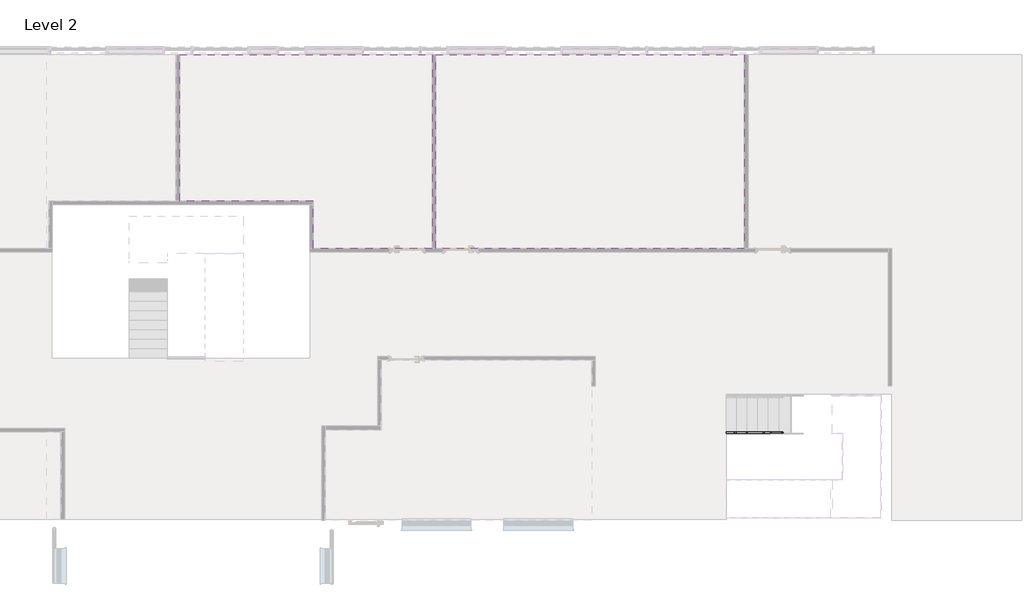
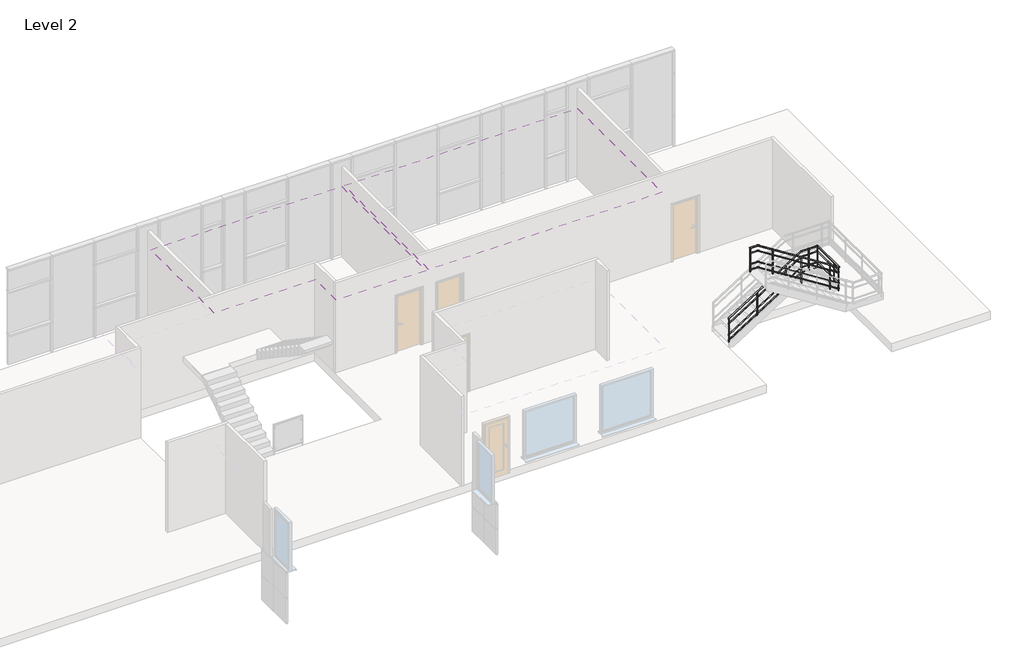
# One storey, part 5 of 7: 2 coverings, 1 railing.
"""IFC4 building model written with IfcOpenShell, lengths in millimetres."""

from ifc_helpers import new_model, si_unit, point, frame, frame_2d, origin, place, context, project, spatial, polyline, circle_curve, ellipse_curve, trimmed, segment, composite_curve, outline, extrude, element, save
from ifc_brep_helpers import plane_surface, cylinder_surface, advanced_brep

model = new_model("IFC4")

# Units and contexts
model_context = context("Model", 3, world=origin())
ifc_project = project(units=[si_unit("LENGTHUNIT", "METRE", prefix="MILLI")], contexts=[model_context])

# Site, building, storey
site = spatial("IfcSite", under=ifc_project)
building = spatial("IfcBuilding", under=site)
storey = spatial("IfcBuildingStorey", under=building, Name="Level 2", Elevation=7450.0)

# Coverings
placement = place(None, origin())
element("IfcCovering", 1, ObjectType="600x600mm_Grid", at=placement, inside=storey, context=model_context, shape_type="SweptSolid", body=[
    extrude(outline(polyline([(20865.7942367, 9007.4946591), (27533.2942367, 9007.4946591), (27533.2942367, 3884.8025486), (24393.2942367, 3884.8025486), (24393.2942367, 5143.5025486), (20865.7942367, 5143.5025486), (20865.7942367, 9007.4946591)])), frame((0.0, 0.0, 10050.0), z_axis=(0.0, 0.0, 1.0), x_axis=(1.0, 0.0, 0.0)), (0.0, 0.0, 1.0), 52.0),
])
element("IfcCovering", 2, ObjectType="600x600mm_Grid", at=placement, inside=storey, context=model_context, shape_type="SweptSolid", body=[
    extrude(outline(polyline([(27628.2942367, 9007.4946591), (35770.7942367, 9007.4946591), (35770.7942367, 3884.8025486), (27628.2942367, 3884.8025486), (27628.2942367, 9007.4946591)])), frame((0.0, 0.0, 10050.0), z_axis=(0.0, 0.0, 1.0), x_axis=(1.0, 0.0, 0.0)), (0.0, 0.0, 1.0), 52.0),
])

# Railing
element("IfcRailing", 3, ObjectType="900mm_Pipe 2", at=placement, inside=storey, context=model_context, shape_type="SolidModel", body=[
    advanced_brep(
    [(35285.7942367, -992.7974508, 8503.8199203), (35285.7942367, -952.7974508, 8503.8199203), (37811.5994328, -992.7974508, 10105.0), (37811.5994328, -952.7974508, 10105.0), (38085.7942367, -992.7974508, 10105.0), (38085.7942367, -952.7974508, 10105.0), (38371.1942367, -992.7974508, 10105.0), (38411.1942367, -952.7974508, 10105.0), (38371.1942367, -2240.073577, 10105.0), (38411.1942367, -2273.8572471, 10105.0)],
    [
        (0, 1, ellipse_curve(frame((35285.7942367, -972.7974508, 8503.8199203), z_axis=(-1.0, 0.0, 0.0), x_axis=(0.0, 0.0, -1.0)), 23.6800797, 20.0)),
        (1, 0, ellipse_curve(frame((35285.7942367, -972.7974508, 8503.8199203), z_axis=(-1.0, 0.0, 0.0), x_axis=(0.0, 0.0, -1.0)), 23.6800797, 20.0)),
        (0, 2),
        (2, 3, ellipse_curve(frame((37811.5994328, -972.7974508, 10105.0), z_axis=(-0.9603623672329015, 0.0, -0.27875459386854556), x_axis=(0.2787545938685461, 0.0, -0.9603623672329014)), 20.8254724, 20.0)),
        (3, 1),
        (3, 2, ellipse_curve(frame((37811.5994328, -972.7974508, 10105.0), z_axis=(-0.9603623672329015, 0.0, -0.27875459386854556), x_axis=(0.2787545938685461, 0.0, -0.9603623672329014)), 20.8254724, 20.0)),
        (2, 4),
        (4, 5, circle_curve(frame((38085.7942367, -972.7974508, 10105.0), z_axis=(-1.0, 0.0, 0.0), x_axis=(0.0, 1.0, 0.0)), 20.0)),
        (5, 3),
        (5, 4, circle_curve(frame((38085.7942367, -972.7974508, 10105.0), z_axis=(-1.0, 0.0, 0.0), x_axis=(0.0, 1.0, 0.0)), 20.0)),
        (4, 6),
        (6, 7, ellipse_curve(frame((38391.1942367, -972.7974508, 10105.0), z_axis=(-0.7071067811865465, 0.7071067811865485, 0.0), x_axis=(-0.7071067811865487, -0.7071067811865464, 0.0)), 28.2842712, 20.0)),
        (7, 5),
        (7, 6, ellipse_curve(frame((38391.1942367, -972.7974508, 10105.0), z_axis=(-0.7071067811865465, 0.7071067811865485, 0.0), x_axis=(-0.7071067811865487, -0.7071067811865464, 0.0)), 28.2842712, 20.0)),
        (8, 9, ellipse_curve(frame((38391.1942367, -2256.9654121, 10105.0), z_axis=(-0.5972165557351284, -0.7071067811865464, 0.3785926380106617), x_axis=(-0.5972165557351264, 0.7071067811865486, 0.3785926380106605)), 28.2842712, 20.0)),
        (9, 8, ellipse_curve(frame((38391.1942367, -2256.9654121, 10105.0), z_axis=(-0.5972165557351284, -0.7071067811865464, 0.3785926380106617), x_axis=(-0.5972165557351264, 0.7071067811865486, 0.3785926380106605)), 28.2842712, 20.0)),
        (6, 8),
        (9, 7),
    ],
    [
        plane_surface(frame((35285.7942367, -972.7974508, 8527.5), z_axis=(-1.0, 0.0, 0.0), x_axis=(0.0, 1.0, 0.0))),
        cylinder_surface(frame((35296.5024535, -972.7974508, 8510.6081649), z_axis=(-0.8445917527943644, 0.0, -0.535410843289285), x_axis=(0.0, 1.0, 0.0)), 20.0),
        cylinder_surface(frame((37805.7942367, -972.7974508, 10105.0), z_axis=(-1.0, 0.0, 0.0), x_axis=(0.0, 1.0, 0.0)), 20.0),
        cylinder_surface(frame((38085.7942367, -972.7974508, 10105.0), z_axis=(-1.0, 0.0, 0.0), x_axis=(0.0, 1.0, 0.0)), 20.0),
        plane_surface(frame((38391.1942367, -2246.2571952, 10125.0), z_axis=(-0.5972165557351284, -0.7071067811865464, 0.3785926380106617), x_axis=(0.8020800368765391, -0.5265009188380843, 0.2818943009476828))),
        cylinder_surface(frame((38391.1942367, -972.7974508, 10105.0), z_axis=(0.0, 1.0, 0.0), x_axis=(1.0, 0.0, 0.0)), 20.0),
    ],
    [
        (0, [[1, 2]]),
        (1, [[-1, 3, 4, 5]]),
        (1, [[-2, -5, 6, -3]]),
        (2, [[-4, 7, 8, 9]]),
        (2, [[-6, -9, 10, -7]]),
        (3, [[-8, 11, 12, 13]]),
        (3, [[-10, -13, 14, -11]]),
        (4, [[15, 16]]),
        (5, [[-12, 17, -16, 18]]),
        (5, [[-14, -18, -15, -17]]),
    ],
),
    advanced_brep(
    [(38344.6646609, -2226.2571952, 10118.8163818), (38378.448331, -2266.2571952, 10097.3999481), (38081.5564959, -2226.2571952, 10285.6081649), (38081.5564959, -2266.2571952, 10285.6081649), (35566.4595167, -2226.2571952, 11880.0), (35566.4595167, -2266.2571952, 11880.0), (35292.2647128, -2226.2571952, 11880.0), (35292.2647128, -2266.2571952, 11880.0)],
    [
        (0, 1, ellipse_curve(frame((38361.5564959, -2246.2571952, 10108.1081649), z_axis=(0.5972165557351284, 0.7071067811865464, -0.3785926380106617), x_axis=(0.5972165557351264, -0.7071067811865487, -0.37859263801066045)), 28.2842712, 20.0)),
        (1, 0, ellipse_curve(frame((38361.5564959, -2246.2571952, 10108.1081649), z_axis=(0.5972165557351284, 0.7071067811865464, -0.3785926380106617), x_axis=(0.5972165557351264, -0.7071067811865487, -0.37859263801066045)), 28.2842712, 20.0)),
        (0, 2),
        (2, 3, circle_curve(frame((38081.5564959, -2246.2571952, 10285.6081649), z_axis=(0.8445917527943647, 0.0, -0.5354108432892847), x_axis=(0.0, -1.0, 0.0)), 20.0)),
        (3, 1),
        (3, 2, circle_curve(frame((38081.5564959, -2246.2571952, 10285.6081649), z_axis=(0.8445917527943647, 0.0, -0.5354108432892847), x_axis=(0.0, -1.0, 0.0)), 20.0)),
        (2, 4),
        (4, 5, ellipse_curve(frame((35566.4595167, -2246.2571952, 11880.0), z_axis=(0.9603623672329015, 0.0, -0.27875459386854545), x_axis=(-0.27875459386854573, 0.0, -0.9603623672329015)), 20.8254724, 20.0)),
        (5, 3),
        (5, 4, ellipse_curve(frame((35566.4595167, -2246.2571952, 11880.0), z_axis=(0.9603623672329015, 0.0, -0.27875459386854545), x_axis=(-0.27875459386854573, 0.0, -0.9603623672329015)), 20.8254724, 20.0)),
        (6, 7, circle_curve(frame((35292.2647128, -2246.2571952, 11880.0), z_axis=(-1.0, 0.0, 0.0), x_axis=(0.0, -1.0, 0.0)), 20.0)),
        (7, 6, circle_curve(frame((35292.2647128, -2246.2571952, 11880.0), z_axis=(-1.0, 0.0, 0.0), x_axis=(0.0, -1.0, 0.0)), 20.0)),
        (4, 6),
        (7, 5),
    ],
    [
        plane_surface(frame((38372.2647128, -2246.2571952, 10125.0), z_axis=(0.5972165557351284, 0.7071067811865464, -0.3785926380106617), x_axis=(0.8020800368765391, -0.5265009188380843, 0.2818943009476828))),
        cylinder_surface(frame((38361.5564959, -2246.2571952, 10108.1081649), z_axis=(0.8445917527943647, 0.0, -0.5354108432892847), x_axis=(0.0, -1.0, 0.0)), 20.0),
        cylinder_surface(frame((38081.5564959, -2246.2571952, 10285.6081649), z_axis=(0.8445917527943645, 0.0, -0.5354108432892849), x_axis=(0.0, -1.0, 0.0)), 20.0),
        plane_surface(frame((35292.2647128, -2246.2571952, 11900.0), z_axis=(-1.0, 0.0, 0.0), x_axis=(0.0, -1.0, 0.0))),
        cylinder_surface(frame((35572.2647128, -2246.2571952, 11880.0), z_axis=(1.0, 0.0, 0.0), x_axis=(0.0, -1.0, 0.0)), 20.0),
    ],
    [
        (0, [[1, 2]]),
        (1, [[-1, 3, 4, 5]]),
        (1, [[-2, -5, 6, -3]]),
        (2, [[-4, 7, 8, 9]]),
        (2, [[-6, -9, 10, -7]]),
        (3, [[11, 12]]),
        (4, [[-8, 13, -12, 14]]),
        (4, [[-10, -14, -11, -13]]),
    ],
),
    advanced_brep(
    [(38085.7942367, -957.7974508, 9910.0), (38085.7942367, -987.7974508, 9910.0), (38376.1942367, -957.7974508, 9910.0), (38376.1942367, -987.7974508, 9910.0)],
    [
        (0, 1, circle_curve(frame((38085.7942367, -972.7974508, 9910.0), z_axis=(-1.0, 0.0, 0.0), x_axis=(0.0, -1.0, 0.0)), 15.0)),
        (1, 0, circle_curve(frame((38085.7942367, -972.7974508, 9910.0), z_axis=(-1.0, 0.0, 0.0), x_axis=(0.0, -1.0, 0.0)), 15.0)),
        (2, 3, circle_curve(frame((38376.1942367, -972.7974508, 9910.0), z_axis=(1.0, 0.0, 0.0), x_axis=(0.0, -1.0, 0.0)), 15.0)),
        (3, 2, circle_curve(frame((38376.1942367, -972.7974508, 9910.0), z_axis=(1.0, 0.0, 0.0), x_axis=(0.0, -1.0, 0.0)), 15.0)),
        (0, 2),
        (3, 1),
    ],
    [
        plane_surface(frame((38085.7942367, -972.7974508, 9925.0), z_axis=(-1.0, 0.0, 0.0), x_axis=(0.0, 1.0, 0.0))),
        plane_surface(frame((38376.1942367, -972.7974508, 9925.0), z_axis=(1.0, 0.0, 0.0), x_axis=(0.0, 1.0, 0.0))),
        cylinder_surface(frame((38085.7942367, -972.7974508, 9910.0), z_axis=(-1.0, 0.0, 0.0), x_axis=(0.0, -1.0, 0.0)), 15.0),
    ],
    [
        (0, [[1, 2]]),
        (1, [[3, 4]]),
        (2, [[-1, 5, -4, 6]]),
        (2, [[-2, -6, -3, -5]]),
    ],
),
    advanced_brep(
    [(38406.1942367, -957.7974508, 9910.0), (38376.1942367, -957.7974508, 9910.0), (38406.1942367, -2231.2571952, 9910.0), (38376.1942367, -2231.2571952, 9910.0)],
    [
        (0, 1, circle_curve(frame((38391.1942367, -957.7974508, 9910.0), z_axis=(0.0, 1.0, 0.0), x_axis=(-1.0, 0.0, 0.0)), 15.0)),
        (1, 0, circle_curve(frame((38391.1942367, -957.7974508, 9910.0), z_axis=(0.0, 1.0, 0.0), x_axis=(-1.0, 0.0, 0.0)), 15.0)),
        (2, 3, circle_curve(frame((38391.1942367, -2231.2571952, 9910.0), z_axis=(0.0, -1.0, 0.0), x_axis=(-1.0, 0.0, 0.0)), 15.0)),
        (3, 2, circle_curve(frame((38391.1942367, -2231.2571952, 9910.0), z_axis=(0.0, -1.0, 0.0), x_axis=(-1.0, 0.0, 0.0)), 15.0)),
        (0, 2),
        (3, 1),
    ],
    [
        plane_surface(frame((38391.1942367, -957.7974508, 9925.0), z_axis=(0.0, 1.0, 0.0), x_axis=(0.0, 0.0, -1.0))),
        plane_surface(frame((38391.1942367, -2231.2571952, 9925.0), z_axis=(0.0, -1.0, 0.0), x_axis=(0.0, 0.0, -1.0))),
        cylinder_surface(frame((38391.1942367, -957.7974508, 9910.0), z_axis=(0.0, 1.0, 0.0), x_axis=(-1.0, 0.0, 0.0)), 15.0),
    ],
    [
        (0, [[1, 2]]),
        (1, [[3, 4]]),
        (2, [[-1, 5, -4, 6]]),
        (2, [[-2, -6, -3, -5]]),
    ],
),
    advanced_brep(
    [(38406.1942367, -2261.2571952, 9910.0), (38406.1942367, -2231.2571952, 9910.0), (38367.9108157, -2261.2571952, 9910.0), (38367.9108157, -2231.2571952, 9910.0), (38092.2647128, -2261.2571952, 10084.7399402), (38092.2647128, -2231.2571952, 10084.7399402)],
    [
        (0, 1, circle_curve(frame((38406.1942367, -2246.2571952, 9910.0), z_axis=(1.0, 0.0, 0.0), x_axis=(0.0, 1.0, 0.0)), 15.0)),
        (1, 0, circle_curve(frame((38406.1942367, -2246.2571952, 9910.0), z_axis=(1.0, 0.0, 0.0), x_axis=(0.0, 1.0, 0.0)), 15.0)),
        (0, 2),
        (2, 3, ellipse_curve(frame((38367.9108157, -2246.2571952, 9910.0), z_axis=(0.9603623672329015, 0.0, -0.27875459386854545), x_axis=(0.27875459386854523, 0.0, 0.9603623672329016)), 15.6191043, 15.0)),
        (3, 1),
        (3, 2, ellipse_curve(frame((38367.9108157, -2246.2571952, 9910.0), z_axis=(0.9603623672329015, 0.0, -0.27875459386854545), x_axis=(0.27875459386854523, 0.0, 0.9603623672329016)), 15.6191043, 15.0)),
        (4, 5, ellipse_curve(frame((38092.2647128, -2246.2571952, 10084.7399402), z_axis=(-1.0, 0.0, 0.0), x_axis=(0.0, 0.0, -1.0)), 17.7600598, 15.0)),
        (5, 4, ellipse_curve(frame((38092.2647128, -2246.2571952, 10084.7399402), z_axis=(-1.0, 0.0, 0.0), x_axis=(0.0, 0.0, -1.0)), 17.7600598, 15.0)),
        (2, 4),
        (5, 3),
    ],
    [
        plane_surface(frame((38406.1942367, -2246.2571952, 9925.0), z_axis=(1.0, 0.0, 0.0), x_axis=(0.0, -1.0, 0.0))),
        cylinder_surface(frame((38406.1942367, -2246.2571952, 9910.0), z_axis=(1.0, 0.0, 0.0), x_axis=(0.0, 1.0, 0.0)), 15.0),
        plane_surface(frame((38092.2647128, -2246.2571952, 10102.5), z_axis=(-1.0, 0.0, 0.0), x_axis=(0.0, -1.0, 0.0))),
        cylinder_surface(frame((38364.2335502, -2246.2571952, 9912.3311237), z_axis=(0.8445917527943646, 0.0, -0.5354108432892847), x_axis=(0.0, 1.0, 0.0)), 15.0),
    ],
    [
        (0, [[1, 2]]),
        (1, [[-1, 3, 4, 5]]),
        (1, [[-2, -5, 6, -3]]),
        (2, [[7, 8]]),
        (3, [[-4, 9, -8, 10]]),
        (3, [[-6, -10, -7, -9]]),
    ],
),
    advanced_brep(
    [(38085.7942367, -957.7974508, 9510.0), (38085.7942367, -987.7974508, 9510.0), (38376.1942367, -957.7974508, 9510.0), (38376.1942367, -987.7974508, 9510.0)],
    [
        (0, 1, circle_curve(frame((38085.7942367, -972.7974508, 9510.0), z_axis=(-1.0, 0.0, 0.0), x_axis=(0.0, -1.0, 0.0)), 15.0)),
        (1, 0, circle_curve(frame((38085.7942367, -972.7974508, 9510.0), z_axis=(-1.0, 0.0, 0.0), x_axis=(0.0, -1.0, 0.0)), 15.0)),
        (2, 3, circle_curve(frame((38376.1942367, -972.7974508, 9510.0), z_axis=(1.0, 0.0, 0.0), x_axis=(0.0, -1.0, 0.0)), 15.0)),
        (3, 2, circle_curve(frame((38376.1942367, -972.7974508, 9510.0), z_axis=(1.0, 0.0, 0.0), x_axis=(0.0, -1.0, 0.0)), 15.0)),
        (0, 2),
        (3, 1),
    ],
    [
        plane_surface(frame((38085.7942367, -972.7974508, 9525.0), z_axis=(-1.0, 0.0, 0.0), x_axis=(0.0, 1.0, 0.0))),
        plane_surface(frame((38376.1942367, -972.7974508, 9525.0), z_axis=(1.0, 0.0, 0.0), x_axis=(0.0, 1.0, 0.0))),
        cylinder_surface(frame((38085.7942367, -972.7974508, 9510.0), z_axis=(-1.0, 0.0, 0.0), x_axis=(0.0, -1.0, 0.0)), 15.0),
    ],
    [
        (0, [[1, 2]]),
        (1, [[3, 4]]),
        (2, [[-1, 5, -4, 6]]),
        (2, [[-2, -6, -3, -5]]),
    ],
),
    advanced_brep(
    [(38406.1942367, -957.7974508, 9510.0), (38376.1942367, -957.7974508, 9510.0), (38406.1942367, -2231.2571952, 9510.0), (38376.1942367, -2231.2571952, 9510.0)],
    [
        (0, 1, circle_curve(frame((38391.1942367, -957.7974508, 9510.0), z_axis=(0.0, 1.0, 0.0), x_axis=(-1.0, 0.0, 0.0)), 15.0)),
        (1, 0, circle_curve(frame((38391.1942367, -957.7974508, 9510.0), z_axis=(0.0, 1.0, 0.0), x_axis=(-1.0, 0.0, 0.0)), 15.0)),
        (2, 3, circle_curve(frame((38391.1942367, -2231.2571952, 9510.0), z_axis=(0.0, -1.0, 0.0), x_axis=(-1.0, 0.0, 0.0)), 15.0)),
        (3, 2, circle_curve(frame((38391.1942367, -2231.2571952, 9510.0), z_axis=(0.0, -1.0, 0.0), x_axis=(-1.0, 0.0, 0.0)), 15.0)),
        (0, 2),
        (3, 1),
    ],
    [
        plane_surface(frame((38391.1942367, -957.7974508, 9525.0), z_axis=(0.0, 1.0, 0.0), x_axis=(0.0, 0.0, -1.0))),
        plane_surface(frame((38391.1942367, -2231.2571952, 9525.0), z_axis=(0.0, -1.0, 0.0), x_axis=(0.0, 0.0, -1.0))),
        cylinder_surface(frame((38391.1942367, -957.7974508, 9510.0), z_axis=(0.0, 1.0, 0.0), x_axis=(-1.0, 0.0, 0.0)), 15.0),
    ],
    [
        (0, [[1, 2]]),
        (1, [[3, 4]]),
        (2, [[-1, 5, -4, 6]]),
        (2, [[-2, -6, -3, -5]]),
    ],
),
    advanced_brep(
    [(38406.1942367, -2261.2571952, 9510.0), (38406.1942367, -2231.2571952, 9510.0), (38367.9108157, -2261.2571952, 9510.0), (38367.9108157, -2231.2571952, 9510.0), (38092.2647128, -2261.2571952, 9684.7399402), (38092.2647128, -2231.2571952, 9684.7399402)],
    [
        (0, 1, circle_curve(frame((38406.1942367, -2246.2571952, 9510.0), z_axis=(1.0, 0.0, 0.0), x_axis=(0.0, 1.0, 0.0)), 15.0)),
        (1, 0, circle_curve(frame((38406.1942367, -2246.2571952, 9510.0), z_axis=(1.0, 0.0, 0.0), x_axis=(0.0, 1.0, 0.0)), 15.0)),
        (0, 2),
        (2, 3, ellipse_curve(frame((38367.9108157, -2246.2571952, 9510.0), z_axis=(0.9603623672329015, 0.0, -0.27875459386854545), x_axis=(0.27875459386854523, 0.0, 0.9603623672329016)), 15.6191043, 15.0)),
        (3, 1),
        (3, 2, ellipse_curve(frame((38367.9108157, -2246.2571952, 9510.0), z_axis=(0.9603623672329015, 0.0, -0.27875459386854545), x_axis=(0.27875459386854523, 0.0, 0.9603623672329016)), 15.6191043, 15.0)),
        (4, 5, ellipse_curve(frame((38092.2647128, -2246.2571952, 9684.7399402), z_axis=(-1.0, 0.0, 0.0), x_axis=(0.0, 0.0, -1.0)), 17.7600598, 15.0)),
        (5, 4, ellipse_curve(frame((38092.2647128, -2246.2571952, 9684.7399402), z_axis=(-1.0, 0.0, 0.0), x_axis=(0.0, 0.0, -1.0)), 17.7600598, 15.0)),
        (2, 4),
        (5, 3),
    ],
    [
        plane_surface(frame((38406.1942367, -2246.2571952, 9525.0), z_axis=(1.0, 0.0, 0.0), x_axis=(0.0, -1.0, 0.0))),
        cylinder_surface(frame((38406.1942367, -2246.2571952, 9510.0), z_axis=(1.0, 0.0, 0.0), x_axis=(0.0, 1.0, 0.0)), 15.0),
        plane_surface(frame((38092.2647128, -2246.2571952, 9702.5), z_axis=(-1.0, 0.0, 0.0), x_axis=(0.0, -1.0, 0.0))),
        cylinder_surface(frame((38364.2335502, -2246.2571952, 9512.3311237), z_axis=(0.8445917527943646, 0.0, -0.5354108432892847), x_axis=(0.0, 1.0, 0.0)), 15.0),
    ],
    [
        (0, [[1, 2]]),
        (1, [[-1, 3, 4, 5]]),
        (1, [[-2, -5, 6, -3]]),
        (2, [[7, 8]]),
        (3, [[-4, 9, -8, 10]]),
        (3, [[-6, -10, -7, -9]]),
    ],
),
    advanced_brep(
    [(38085.7942367, -957.7974508, 9310.0), (38085.7942367, -987.7974508, 9310.0), (38376.1942367, -957.7974508, 9310.0), (38376.1942367, -987.7974508, 9310.0)],
    [
        (0, 1, circle_curve(frame((38085.7942367, -972.7974508, 9310.0), z_axis=(-1.0, 0.0, 0.0), x_axis=(0.0, -1.0, 0.0)), 15.0)),
        (1, 0, circle_curve(frame((38085.7942367, -972.7974508, 9310.0), z_axis=(-1.0, 0.0, 0.0), x_axis=(0.0, -1.0, 0.0)), 15.0)),
        (2, 3, circle_curve(frame((38376.1942367, -972.7974508, 9310.0), z_axis=(1.0, 0.0, 0.0), x_axis=(0.0, -1.0, 0.0)), 15.0)),
        (3, 2, circle_curve(frame((38376.1942367, -972.7974508, 9310.0), z_axis=(1.0, 0.0, 0.0), x_axis=(0.0, -1.0, 0.0)), 15.0)),
        (0, 2),
        (3, 1),
    ],
    [
        plane_surface(frame((38085.7942367, -972.7974508, 9325.0), z_axis=(-1.0, 0.0, 0.0), x_axis=(0.0, 1.0, 0.0))),
        plane_surface(frame((38376.1942367, -972.7974508, 9325.0), z_axis=(1.0, 0.0, 0.0), x_axis=(0.0, 1.0, 0.0))),
        cylinder_surface(frame((38085.7942367, -972.7974508, 9310.0), z_axis=(-1.0, 0.0, 0.0), x_axis=(0.0, -1.0, 0.0)), 15.0),
    ],
    [
        (0, [[1, 2]]),
        (1, [[3, 4]]),
        (2, [[-1, 5, -4, 6]]),
        (2, [[-2, -6, -3, -5]]),
    ],
),
    advanced_brep(
    [(38406.1942367, -957.7974508, 9310.0), (38376.1942367, -957.7974508, 9310.0), (38406.1942367, -2231.2571952, 9310.0), (38376.1942367, -2231.2571952, 9310.0)],
    [
        (0, 1, circle_curve(frame((38391.1942367, -957.7974508, 9310.0), z_axis=(0.0, 1.0, 0.0), x_axis=(-1.0, 0.0, 0.0)), 15.0)),
        (1, 0, circle_curve(frame((38391.1942367, -957.7974508, 9310.0), z_axis=(0.0, 1.0, 0.0), x_axis=(-1.0, 0.0, 0.0)), 15.0)),
        (2, 3, circle_curve(frame((38391.1942367, -2231.2571952, 9310.0), z_axis=(0.0, -1.0, 0.0), x_axis=(-1.0, 0.0, 0.0)), 15.0)),
        (3, 2, circle_curve(frame((38391.1942367, -2231.2571952, 9310.0), z_axis=(0.0, -1.0, 0.0), x_axis=(-1.0, 0.0, 0.0)), 15.0)),
        (0, 2),
        (3, 1),
    ],
    [
        plane_surface(frame((38391.1942367, -957.7974508, 9325.0), z_axis=(0.0, 1.0, 0.0), x_axis=(0.0, 0.0, -1.0))),
        plane_surface(frame((38391.1942367, -2231.2571952, 9325.0), z_axis=(0.0, -1.0, 0.0), x_axis=(0.0, 0.0, -1.0))),
        cylinder_surface(frame((38391.1942367, -957.7974508, 9310.0), z_axis=(0.0, 1.0, 0.0), x_axis=(-1.0, 0.0, 0.0)), 15.0),
    ],
    [
        (0, [[1, 2]]),
        (1, [[3, 4]]),
        (2, [[-1, 5, -4, 6]]),
        (2, [[-2, -6, -3, -5]]),
    ],
),
    advanced_brep(
    [(38406.1942367, -2261.2571952, 9310.0), (38406.1942367, -2231.2571952, 9310.0), (38367.9108157, -2261.2571952, 9310.0), (38367.9108157, -2231.2571952, 9310.0), (38092.2647128, -2261.2571952, 9484.7399402), (38092.2647128, -2231.2571952, 9484.7399402)],
    [
        (0, 1, circle_curve(frame((38406.1942367, -2246.2571952, 9310.0), z_axis=(1.0, 0.0, 0.0), x_axis=(0.0, 1.0, 0.0)), 15.0)),
        (1, 0, circle_curve(frame((38406.1942367, -2246.2571952, 9310.0), z_axis=(1.0, 0.0, 0.0), x_axis=(0.0, 1.0, 0.0)), 15.0)),
        (0, 2),
        (2, 3, ellipse_curve(frame((38367.9108157, -2246.2571952, 9310.0), z_axis=(0.9603623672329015, 0.0, -0.27875459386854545), x_axis=(0.27875459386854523, 0.0, 0.9603623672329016)), 15.6191043, 15.0)),
        (3, 1),
        (3, 2, ellipse_curve(frame((38367.9108157, -2246.2571952, 9310.0), z_axis=(0.9603623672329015, 0.0, -0.27875459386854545), x_axis=(0.27875459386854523, 0.0, 0.9603623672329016)), 15.6191043, 15.0)),
        (4, 5, ellipse_curve(frame((38092.2647128, -2246.2571952, 9484.7399402), z_axis=(-1.0, 0.0, 0.0), x_axis=(0.0, 0.0, -1.0)), 17.7600598, 15.0)),
        (5, 4, ellipse_curve(frame((38092.2647128, -2246.2571952, 9484.7399402), z_axis=(-1.0, 0.0, 0.0), x_axis=(0.0, 0.0, -1.0)), 17.7600598, 15.0)),
        (2, 4),
        (5, 3),
    ],
    [
        plane_surface(frame((38406.1942367, -2246.2571952, 9325.0), z_axis=(1.0, 0.0, 0.0), x_axis=(0.0, -1.0, 0.0))),
        cylinder_surface(frame((38406.1942367, -2246.2571952, 9310.0), z_axis=(1.0, 0.0, 0.0), x_axis=(0.0, 1.0, 0.0)), 15.0),
        plane_surface(frame((38092.2647128, -2246.2571952, 9502.5), z_axis=(-1.0, 0.0, 0.0), x_axis=(0.0, -1.0, 0.0))),
        cylinder_surface(frame((38364.2335502, -2246.2571952, 9312.3311237), z_axis=(0.8445917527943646, 0.0, -0.5354108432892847), x_axis=(0.0, 1.0, 0.0)), 15.0),
    ],
    [
        (0, [[1, 2]]),
        (1, [[-1, 3, 4, 5]]),
        (1, [[-2, -5, 6, -3]]),
        (2, [[7, 8]]),
        (3, [[-4, 9, -8, 10]]),
        (3, [[-6, -10, -7, -9]]),
    ],
),
    advanced_brep(
    [(35285.7942367, -957.7974508, 8309.7399402), (35285.7942367, -987.7974508, 8309.7399402), (37810.1481338, -957.7974508, 9910.0), (37810.1481338, -987.7974508, 9910.0), (38085.7942367, -957.7974508, 9910.0), (38085.7942367, -987.7974508, 9910.0)],
    [
        (0, 1, ellipse_curve(frame((35285.7942367, -972.7974508, 8309.7399402), z_axis=(-1.0, 0.0, 0.0), x_axis=(0.0, 0.0, -1.0)), 17.7600598, 15.0)),
        (1, 0, ellipse_curve(frame((35285.7942367, -972.7974508, 8309.7399402), z_axis=(-1.0, 0.0, 0.0), x_axis=(0.0, 0.0, -1.0)), 17.7600598, 15.0)),
        (0, 2),
        (2, 3, ellipse_curve(frame((37810.1481338, -972.7974508, 9910.0), z_axis=(-0.9603623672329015, 0.0, -0.27875459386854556), x_axis=(0.2787545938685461, 0.0, -0.9603623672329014)), 15.6191043, 15.0)),
        (3, 1),
        (3, 2, ellipse_curve(frame((37810.1481338, -972.7974508, 9910.0), z_axis=(-0.9603623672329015, 0.0, -0.27875459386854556), x_axis=(0.2787545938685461, 0.0, -0.9603623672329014)), 15.6191043, 15.0)),
        (4, 5, circle_curve(frame((38085.7942367, -972.7974508, 9910.0), z_axis=(1.0, 0.0, 0.0), x_axis=(0.0, -1.0, 0.0)), 15.0)),
        (5, 4, circle_curve(frame((38085.7942367, -972.7974508, 9910.0), z_axis=(1.0, 0.0, 0.0), x_axis=(0.0, -1.0, 0.0)), 15.0)),
        (2, 4),
        (5, 3),
    ],
    [
        plane_surface(frame((35285.7942367, -972.7974508, 8327.5), z_axis=(-1.0, 0.0, 0.0), x_axis=(0.0, 1.0, 0.0))),
        cylinder_surface(frame((35293.8253993, -972.7974508, 8314.8311237), z_axis=(-0.8445917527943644, 0.0, -0.535410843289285), x_axis=(0.0, -1.0, 0.0)), 15.0),
        plane_surface(frame((38085.7942367, -972.7974508, 9925.0), z_axis=(1.0, 0.0, 0.0), x_axis=(0.0, 1.0, 0.0))),
        cylinder_surface(frame((37805.7942367, -972.7974508, 9910.0), z_axis=(-1.0, 0.0, 0.0), x_axis=(0.0, -1.0, 0.0)), 15.0),
    ],
    [
        (0, [[1, 2]]),
        (1, [[-1, 3, 4, 5]]),
        (1, [[-2, -5, 6, -3]]),
        (2, [[7, 8]]),
        (3, [[-4, 9, -8, 10]]),
        (3, [[-6, -10, -7, -9]]),
    ],
),
    advanced_brep(
    [(38092.2647128, -2261.2571952, 10084.7399402), (38092.2647128, -2231.2571952, 10084.7399402), (35567.9108157, -2261.2571952, 11685.0), (35567.9108157, -2231.2571952, 11685.0), (35292.2647128, -2261.2571952, 11685.0), (35292.2647128, -2231.2571952, 11685.0)],
    [
        (0, 1, ellipse_curve(frame((38092.2647128, -2246.2571952, 10084.7399402), z_axis=(1.0, 0.0, 0.0), x_axis=(0.0, 0.0, -1.0)), 17.7600598, 15.0)),
        (1, 0, ellipse_curve(frame((38092.2647128, -2246.2571952, 10084.7399402), z_axis=(1.0, 0.0, 0.0), x_axis=(0.0, 0.0, -1.0)), 17.7600598, 15.0)),
        (0, 2),
        (2, 3, ellipse_curve(frame((35567.9108157, -2246.2571952, 11685.0), z_axis=(0.9603623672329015, 0.0, -0.27875459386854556), x_axis=(-0.2787545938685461, 0.0, -0.9603623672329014)), 15.6191043, 15.0)),
        (3, 1),
        (3, 2, ellipse_curve(frame((35567.9108157, -2246.2571952, 11685.0), z_axis=(0.9603623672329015, 0.0, -0.27875459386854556), x_axis=(-0.2787545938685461, 0.0, -0.9603623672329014)), 15.6191043, 15.0)),
        (4, 5, circle_curve(frame((35292.2647128, -2246.2571952, 11685.0), z_axis=(-1.0, 0.0, 0.0), x_axis=(0.0, 1.0, 0.0)), 15.0)),
        (5, 4, circle_curve(frame((35292.2647128, -2246.2571952, 11685.0), z_axis=(-1.0, 0.0, 0.0), x_axis=(0.0, 1.0, 0.0)), 15.0)),
        (2, 4),
        (5, 3),
    ],
    [
        plane_surface(frame((38092.2647128, -2246.2571952, 10102.5), z_axis=(1.0, 0.0, 0.0), x_axis=(0.0, -1.0, 0.0))),
        cylinder_surface(frame((38084.2335502, -2246.2571952, 10089.8311237), z_axis=(0.8445917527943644, 0.0, -0.535410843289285), x_axis=(0.0, 1.0, 0.0)), 15.0),
        plane_surface(frame((35292.2647128, -2246.2571952, 11700.0), z_axis=(-1.0, 0.0, 0.0), x_axis=(0.0, -1.0, 0.0))),
        cylinder_surface(frame((35572.2647128, -2246.2571952, 11685.0), z_axis=(1.0, 0.0, 0.0), x_axis=(0.0, 1.0, 0.0)), 15.0),
    ],
    [
        (0, [[1, 2]]),
        (1, [[-1, 3, 4, 5]]),
        (1, [[-2, -5, 6, -3]]),
        (2, [[7, 8]]),
        (3, [[-4, 9, -8, 10]]),
        (3, [[-6, -10, -7, -9]]),
    ],
),
    advanced_brep(
    [(35285.7942367, -957.7974508, 7909.7399402), (35285.7942367, -987.7974508, 7909.7399402), (37810.1481338, -957.7974508, 9510.0), (37810.1481338, -987.7974508, 9510.0), (38085.7942367, -957.7974508, 9510.0), (38085.7942367, -987.7974508, 9510.0)],
    [
        (0, 1, ellipse_curve(frame((35285.7942367, -972.7974508, 7909.7399402), z_axis=(-1.0, 0.0, 0.0), x_axis=(0.0, 0.0, -1.0)), 17.7600598, 15.0)),
        (1, 0, ellipse_curve(frame((35285.7942367, -972.7974508, 7909.7399402), z_axis=(-1.0, 0.0, 0.0), x_axis=(0.0, 0.0, -1.0)), 17.7600598, 15.0)),
        (0, 2),
        (2, 3, ellipse_curve(frame((37810.1481338, -972.7974508, 9510.0), z_axis=(-0.9603623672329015, 0.0, -0.27875459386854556), x_axis=(0.2787545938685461, 0.0, -0.9603623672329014)), 15.6191043, 15.0)),
        (3, 1),
        (3, 2, ellipse_curve(frame((37810.1481338, -972.7974508, 9510.0), z_axis=(-0.9603623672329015, 0.0, -0.27875459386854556), x_axis=(0.2787545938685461, 0.0, -0.9603623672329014)), 15.6191043, 15.0)),
        (4, 5, circle_curve(frame((38085.7942367, -972.7974508, 9510.0), z_axis=(1.0, 0.0, 0.0), x_axis=(0.0, -1.0, 0.0)), 15.0)),
        (5, 4, circle_curve(frame((38085.7942367, -972.7974508, 9510.0), z_axis=(1.0, 0.0, 0.0), x_axis=(0.0, -1.0, 0.0)), 15.0)),
        (2, 4),
        (5, 3),
    ],
    [
        plane_surface(frame((35285.7942367, -972.7974508, 7927.5), z_axis=(-1.0, 0.0, 0.0), x_axis=(0.0, 1.0, 0.0))),
        cylinder_surface(frame((35293.8253993, -972.7974508, 7914.8311237), z_axis=(-0.8445917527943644, 0.0, -0.535410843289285), x_axis=(0.0, -1.0, 0.0)), 15.0),
        plane_surface(frame((38085.7942367, -972.7974508, 9525.0), z_axis=(1.0, 0.0, 0.0), x_axis=(0.0, 1.0, 0.0))),
        cylinder_surface(frame((37805.7942367, -972.7974508, 9510.0), z_axis=(-1.0, 0.0, 0.0), x_axis=(0.0, -1.0, 0.0)), 15.0),
    ],
    [
        (0, [[1, 2]]),
        (1, [[-1, 3, 4, 5]]),
        (1, [[-2, -5, 6, -3]]),
        (2, [[7, 8]]),
        (3, [[-4, 9, -8, 10]]),
        (3, [[-6, -10, -7, -9]]),
    ],
),
    advanced_brep(
    [(38092.2647128, -2261.2571952, 9684.7399402), (38092.2647128, -2231.2571952, 9684.7399402), (35567.9108157, -2261.2571952, 11285.0), (35567.9108157, -2231.2571952, 11285.0), (35292.2647128, -2261.2571952, 11285.0), (35292.2647128, -2231.2571952, 11285.0)],
    [
        (0, 1, ellipse_curve(frame((38092.2647128, -2246.2571952, 9684.7399402), z_axis=(1.0, 0.0, 0.0), x_axis=(0.0, 0.0, -1.0)), 17.7600598, 15.0)),
        (1, 0, ellipse_curve(frame((38092.2647128, -2246.2571952, 9684.7399402), z_axis=(1.0, 0.0, 0.0), x_axis=(0.0, 0.0, -1.0)), 17.7600598, 15.0)),
        (0, 2),
        (2, 3, ellipse_curve(frame((35567.9108157, -2246.2571952, 11285.0), z_axis=(0.9603623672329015, 0.0, -0.27875459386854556), x_axis=(-0.2787545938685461, 0.0, -0.9603623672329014)), 15.6191043, 15.0)),
        (3, 1),
        (3, 2, ellipse_curve(frame((35567.9108157, -2246.2571952, 11285.0), z_axis=(0.9603623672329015, 0.0, -0.27875459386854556), x_axis=(-0.2787545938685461, 0.0, -0.9603623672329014)), 15.6191043, 15.0)),
        (4, 5, circle_curve(frame((35292.2647128, -2246.2571952, 11285.0), z_axis=(-1.0, 0.0, 0.0), x_axis=(0.0, 1.0, 0.0)), 15.0)),
        (5, 4, circle_curve(frame((35292.2647128, -2246.2571952, 11285.0), z_axis=(-1.0, 0.0, 0.0), x_axis=(0.0, 1.0, 0.0)), 15.0)),
        (2, 4),
        (5, 3),
    ],
    [
        plane_surface(frame((38092.2647128, -2246.2571952, 9702.5), z_axis=(1.0, 0.0, 0.0), x_axis=(0.0, -1.0, 0.0))),
        cylinder_surface(frame((38084.2335502, -2246.2571952, 9689.8311237), z_axis=(0.8445917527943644, 0.0, -0.535410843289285), x_axis=(0.0, 1.0, 0.0)), 15.0),
        plane_surface(frame((35292.2647128, -2246.2571952, 11300.0), z_axis=(-1.0, 0.0, 0.0), x_axis=(0.0, -1.0, 0.0))),
        cylinder_surface(frame((35572.2647128, -2246.2571952, 11285.0), z_axis=(1.0, 0.0, 0.0), x_axis=(0.0, 1.0, 0.0)), 15.0),
    ],
    [
        (0, [[1, 2]]),
        (1, [[-1, 3, 4, 5]]),
        (1, [[-2, -5, 6, -3]]),
        (2, [[7, 8]]),
        (3, [[-4, 9, -8, 10]]),
        (3, [[-6, -10, -7, -9]]),
    ],
),
    advanced_brep(
    [(35285.7942367, -957.7974508, 7709.7399402), (35285.7942367, -987.7974508, 7709.7399402), (37810.1481338, -957.7974508, 9310.0), (37810.1481338, -987.7974508, 9310.0), (38085.7942367, -957.7974508, 9310.0), (38085.7942367, -987.7974508, 9310.0)],
    [
        (0, 1, ellipse_curve(frame((35285.7942367, -972.7974508, 7709.7399402), z_axis=(-1.0, 0.0, 0.0), x_axis=(0.0, 0.0, -1.0)), 17.7600598, 15.0)),
        (1, 0, ellipse_curve(frame((35285.7942367, -972.7974508, 7709.7399402), z_axis=(-1.0, 0.0, 0.0), x_axis=(0.0, 0.0, -1.0)), 17.7600598, 15.0)),
        (0, 2),
        (2, 3, ellipse_curve(frame((37810.1481338, -972.7974508, 9310.0), z_axis=(-0.9603623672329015, 0.0, -0.27875459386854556), x_axis=(0.2787545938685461, 0.0, -0.9603623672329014)), 15.6191043, 15.0)),
        (3, 1),
        (3, 2, ellipse_curve(frame((37810.1481338, -972.7974508, 9310.0), z_axis=(-0.9603623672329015, 0.0, -0.27875459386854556), x_axis=(0.2787545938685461, 0.0, -0.9603623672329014)), 15.6191043, 15.0)),
        (4, 5, circle_curve(frame((38085.7942367, -972.7974508, 9310.0), z_axis=(1.0, 0.0, 0.0), x_axis=(0.0, -1.0, 0.0)), 15.0)),
        (5, 4, circle_curve(frame((38085.7942367, -972.7974508, 9310.0), z_axis=(1.0, 0.0, 0.0), x_axis=(0.0, -1.0, 0.0)), 15.0)),
        (2, 4),
        (5, 3),
    ],
    [
        plane_surface(frame((35285.7942367, -972.7974508, 7727.5), z_axis=(-1.0, 0.0, 0.0), x_axis=(0.0, 1.0, 0.0))),
        cylinder_surface(frame((35293.8253993, -972.7974508, 7714.8311237), z_axis=(-0.8445917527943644, 0.0, -0.535410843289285), x_axis=(0.0, -1.0, 0.0)), 15.0),
        plane_surface(frame((38085.7942367, -972.7974508, 9325.0), z_axis=(1.0, 0.0, 0.0), x_axis=(0.0, 1.0, 0.0))),
        cylinder_surface(frame((37805.7942367, -972.7974508, 9310.0), z_axis=(-1.0, 0.0, 0.0), x_axis=(0.0, -1.0, 0.0)), 15.0),
    ],
    [
        (0, [[1, 2]]),
        (1, [[-1, 3, 4, 5]]),
        (1, [[-2, -5, 6, -3]]),
        (2, [[7, 8]]),
        (3, [[-4, 9, -8, 10]]),
        (3, [[-6, -10, -7, -9]]),
    ],
),
    advanced_brep(
    [(38092.2647128, -2261.2571952, 9484.7399402), (38092.2647128, -2231.2571952, 9484.7399402), (35567.9108157, -2261.2571952, 11085.0), (35567.9108157, -2231.2571952, 11085.0), (35292.2647128, -2261.2571952, 11085.0), (35292.2647128, -2231.2571952, 11085.0)],
    [
        (0, 1, ellipse_curve(frame((38092.2647128, -2246.2571952, 9484.7399402), z_axis=(1.0, 0.0, 0.0), x_axis=(0.0, 0.0, -1.0)), 17.7600598, 15.0)),
        (1, 0, ellipse_curve(frame((38092.2647128, -2246.2571952, 9484.7399402), z_axis=(1.0, 0.0, 0.0), x_axis=(0.0, 0.0, -1.0)), 17.7600598, 15.0)),
        (0, 2),
        (2, 3, ellipse_curve(frame((35567.9108157, -2246.2571952, 11085.0), z_axis=(0.9603623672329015, 0.0, -0.27875459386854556), x_axis=(-0.2787545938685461, 0.0, -0.9603623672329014)), 15.6191043, 15.0)),
        (3, 1),
        (3, 2, ellipse_curve(frame((35567.9108157, -2246.2571952, 11085.0), z_axis=(0.9603623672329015, 0.0, -0.27875459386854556), x_axis=(-0.2787545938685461, 0.0, -0.9603623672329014)), 15.6191043, 15.0)),
        (4, 5, circle_curve(frame((35292.2647128, -2246.2571952, 11085.0), z_axis=(-1.0, 0.0, 0.0), x_axis=(0.0, 1.0, 0.0)), 15.0)),
        (5, 4, circle_curve(frame((35292.2647128, -2246.2571952, 11085.0), z_axis=(-1.0, 0.0, 0.0), x_axis=(0.0, 1.0, 0.0)), 15.0)),
        (2, 4),
        (5, 3),
    ],
    [
        plane_surface(frame((38092.2647128, -2246.2571952, 9502.5), z_axis=(1.0, 0.0, 0.0), x_axis=(0.0, -1.0, 0.0))),
        cylinder_surface(frame((38084.2335502, -2246.2571952, 9489.8311237), z_axis=(0.8445917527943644, 0.0, -0.535410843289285), x_axis=(0.0, 1.0, 0.0)), 15.0),
        plane_surface(frame((35292.2647128, -2246.2571952, 11100.0), z_axis=(-1.0, 0.0, 0.0), x_axis=(0.0, -1.0, 0.0))),
        cylinder_surface(frame((35572.2647128, -2246.2571952, 11085.0), z_axis=(1.0, 0.0, 0.0), x_axis=(0.0, 1.0, 0.0)), 15.0),
    ],
    [
        (0, [[1, 2]]),
        (1, [[-1, 3, 4, 5]]),
        (1, [[-2, -5, 6, -3]]),
        (2, [[7, 8]]),
        (3, [[-4, 9, -8, 10]]),
        (3, [[-6, -10, -7, -9]]),
    ],
),
    advanced_brep(
    [(36092.2647128, -2233.7571952, 11522.9969835), (36092.2647128, -2233.7571952, 10645.0), (36092.2647128, -2258.7571952, 10645.0), (36092.2647128, -2258.7571952, 11522.9969835)],
    [
        (0, 1),
        (1, 2, circle_curve(frame((36092.2647128, -2246.2571952, 10645.0), z_axis=(0.0, 0.0, 1.0), x_axis=(0.0, -1.0, 0.0)), 12.5)),
        (2, 3),
        (3, 0, ellipse_curve(frame((36092.2647128, -2246.2571952, 11522.9969835), z_axis=(-0.5354108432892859, 0.0, -0.8445917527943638), x_axis=(-0.8445917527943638, 0.0, 0.5354108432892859)), 14.8000498, 12.5)),
        (0, 3, ellipse_curve(frame((36092.2647128, -2246.2571952, 11522.9969835), z_axis=(-0.5354108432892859, 0.0, -0.8445917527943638), x_axis=(-0.8445917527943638, 0.0, 0.5354108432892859)), 14.8000498, 12.5)),
        (2, 1, circle_curve(frame((36092.2647128, -2246.2571952, 10645.0), z_axis=(0.0, 0.0, 1.0), x_axis=(0.0, -1.0, 0.0)), 12.5)),
    ],
    [
        cylinder_surface(frame((36092.2647128, -2246.2571952, 10545.0), z_axis=(0.0, 0.0, 1.0), x_axis=(0.0, -1.0, 0.0)), 12.5),
        plane_surface(frame((36067.2647128, -2271.2571952, 11538.8451978), z_axis=(0.5354108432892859, 0.0, 0.8445917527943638), x_axis=(0.0, 1.0, 0.0))),
        plane_surface(frame((36117.2647128, -2271.2571952, 10645.0), z_axis=(0.0, 0.0, -1.0), x_axis=(0.0, 1.0, 0.0))),
    ],
    [
        (0, [[1, 2, 3, 4]]),
        (0, [[-1, 5, -3, 6]]),
        (1, [[-4, -5]]),
        (2, [[-2, -6]]),
    ],
),
    advanced_brep(
    [(37092.2647128, -2233.7571952, 10889.0684121), (37092.2647128, -2233.7571952, 9935.0), (37092.2647128, -2258.7571952, 9935.0), (37092.2647128, -2258.7571952, 10889.0684121)],
    [
        (0, 1),
        (1, 2, circle_curve(frame((37092.2647128, -2246.2571952, 9935.0), z_axis=(0.0, 0.0, 1.0), x_axis=(0.0, -1.0, 0.0)), 12.5)),
        (2, 3),
        (3, 0, ellipse_curve(frame((37092.2647128, -2246.2571952, 10889.0684121), z_axis=(-0.5354108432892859, 0.0, -0.8445917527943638), x_axis=(-0.8445917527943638, 0.0, 0.5354108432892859)), 14.8000498, 12.5)),
        (0, 3, ellipse_curve(frame((37092.2647128, -2246.2571952, 10889.0684121), z_axis=(-0.5354108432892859, 0.0, -0.8445917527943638), x_axis=(-0.8445917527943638, 0.0, 0.5354108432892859)), 14.8000498, 12.5)),
        (2, 1, circle_curve(frame((37092.2647128, -2246.2571952, 9935.0), z_axis=(0.0, 0.0, 1.0), x_axis=(0.0, -1.0, 0.0)), 12.5)),
    ],
    [
        cylinder_surface(frame((37092.2647128, -2246.2571952, 9835.0), z_axis=(0.0, 0.0, 1.0), x_axis=(0.0, -1.0, 0.0)), 12.5),
        plane_surface(frame((37067.2647128, -2271.2571952, 10904.9166264), z_axis=(0.5354108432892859, 0.0, 0.8445917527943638), x_axis=(0.0, 1.0, 0.0))),
        plane_surface(frame((37117.2647128, -2271.2571952, 9935.0), z_axis=(0.0, 0.0, -1.0), x_axis=(0.0, 1.0, 0.0))),
    ],
    [
        (0, [[1, 2, 3, 4]]),
        (0, [[-1, 5, -3, 6]]),
        (1, [[-4, -5]]),
        (2, [[-2, -6]]),
    ],
),
    extrude(outline(composite_curve([segment(trimmed(circle_curve(frame_2d((38391.1942367, -1972.7974508)), 12.5), [point((38403.6942367, -1972.7974508))], [point((38378.6942367, -1972.7974508))], False, "CARTESIAN"), True, "CONTINUOUS"), segment(trimmed(circle_curve(frame_2d((38391.1942367, -1972.7974508)), 12.5), [point((38378.6942367, -1972.7974508))], [point((38403.6942367, -1972.7974508))], False, "CARTESIAN"), True, "CONTINUOUS")], self_intersect=False)), frame((0.0, 0.0, 9225.0), z_axis=(0.0, 0.0, 1.0), x_axis=(1.0, 0.0, 0.0)), (0.0, 0.0, 1.0), 860.0),
    advanced_brep(
    [(37285.7942367, -985.2974508, 9747.9969835), (37285.7942367, -985.2974508, 8870.0), (37285.7942367, -960.2974508, 8870.0), (37285.7942367, -960.2974508, 9747.9969835)],
    [
        (0, 1),
        (1, 2, circle_curve(frame((37285.7942367, -972.7974508, 8870.0), z_axis=(0.0, 0.0, 1.0), x_axis=(0.0, 1.0, 0.0)), 12.5)),
        (2, 3),
        (3, 0, ellipse_curve(frame((37285.7942367, -972.7974508, 9747.9969835), z_axis=(0.5354108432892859, 0.0, -0.8445917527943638), x_axis=(0.8445917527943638, 0.0, 0.5354108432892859)), 14.8000498, 12.5)),
        (0, 3, ellipse_curve(frame((37285.7942367, -972.7974508, 9747.9969835), z_axis=(0.5354108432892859, 0.0, -0.8445917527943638), x_axis=(0.8445917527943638, 0.0, 0.5354108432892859)), 14.8000498, 12.5)),
        (2, 1, circle_curve(frame((37285.7942367, -972.7974508, 8870.0), z_axis=(0.0, 0.0, 1.0), x_axis=(0.0, 1.0, 0.0)), 12.5)),
    ],
    [
        cylinder_surface(frame((37285.7942367, -972.7974508, 8770.0), z_axis=(0.0, 0.0, 1.0), x_axis=(0.0, 1.0, 0.0)), 12.5),
        plane_surface(frame((37310.7942367, -947.7974508, 9763.8451978), z_axis=(-0.5354108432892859, 0.0, 0.8445917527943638), x_axis=(0.0, -1.0, 0.0))),
        plane_surface(frame((37260.7942367, -947.7974508, 8870.0), z_axis=(0.0, 0.0, -1.0), x_axis=(0.0, -1.0, 0.0))),
    ],
    [
        (0, [[1, 2, 3, 4]]),
        (0, [[-1, 5, -3, 6]]),
        (1, [[-4, -5]]),
        (2, [[-2, -6]]),
    ],
),
    advanced_brep(
    [(36285.7942367, -985.2974508, 9114.0684121), (36285.7942367, -985.2974508, 8160.0), (36285.7942367, -960.2974508, 8160.0), (36285.7942367, -960.2974508, 9114.0684121)],
    [
        (0, 1),
        (1, 2, circle_curve(frame((36285.7942367, -972.7974508, 8160.0), z_axis=(0.0, 0.0, 1.0), x_axis=(0.0, 1.0, 0.0)), 12.5)),
        (2, 3),
        (3, 0, ellipse_curve(frame((36285.7942367, -972.7974508, 9114.0684121), z_axis=(0.5354108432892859, 0.0, -0.8445917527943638), x_axis=(0.8445917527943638, 0.0, 0.5354108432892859)), 14.8000498, 12.5)),
        (0, 3, ellipse_curve(frame((36285.7942367, -972.7974508, 9114.0684121), z_axis=(0.5354108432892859, 0.0, -0.8445917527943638), x_axis=(0.8445917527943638, 0.0, 0.5354108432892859)), 14.8000498, 12.5)),
        (2, 1, circle_curve(frame((36285.7942367, -972.7974508, 8160.0), z_axis=(0.0, 0.0, 1.0), x_axis=(0.0, 1.0, 0.0)), 12.5)),
    ],
    [
        cylinder_surface(frame((36285.7942367, -972.7974508, 8060.0), z_axis=(0.0, 0.0, 1.0), x_axis=(0.0, 1.0, 0.0)), 12.5),
        plane_surface(frame((36310.7942367, -947.7974508, 9129.9166264), z_axis=(-0.5354108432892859, 0.0, 0.8445917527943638), x_axis=(0.0, -1.0, 0.0))),
        plane_surface(frame((36260.7942367, -947.7974508, 8160.0), z_axis=(0.0, 0.0, -1.0), x_axis=(0.0, -1.0, 0.0))),
    ],
    [
        (0, [[1, 2, 3, 4]]),
        (0, [[-1, 5, -3, 6]]),
        (1, [[-4, -5]]),
        (2, [[-2, -6]]),
    ],
),
    advanced_brep(
    [(38092.2647128, -2233.7571952, 10255.1398406), (38092.2647128, -2233.7571952, 9225.0), (38092.2647128, -2258.7571952, 9225.0), (38092.2647128, -2258.7571952, 10255.1398406)],
    [
        (0, 1),
        (1, 2, circle_curve(frame((38092.2647128, -2246.2571952, 9225.0), z_axis=(0.0, 0.0, 1.0), x_axis=(0.0, -1.0, 0.0)), 12.5)),
        (2, 3),
        (3, 0, ellipse_curve(frame((38092.2647128, -2246.2571952, 10255.1398406), z_axis=(-0.5354108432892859, 0.0, -0.8445917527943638), x_axis=(-0.8445917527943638, 0.0, 0.5354108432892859)), 14.8000498, 12.5)),
        (0, 3, ellipse_curve(frame((38092.2647128, -2246.2571952, 10255.1398406), z_axis=(-0.5354108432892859, 0.0, -0.8445917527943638), x_axis=(-0.8445917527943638, 0.0, 0.5354108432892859)), 14.8000498, 12.5)),
        (2, 1, circle_curve(frame((38092.2647128, -2246.2571952, 9225.0), z_axis=(0.0, 0.0, 1.0), x_axis=(0.0, -1.0, 0.0)), 12.5)),
    ],
    [
        cylinder_surface(frame((38092.2647128, -2246.2571952, 9125.0), z_axis=(0.0, 0.0, 1.0), x_axis=(0.0, -1.0, 0.0)), 12.5),
        plane_surface(frame((38067.2647128, -2271.2571952, 10270.9880549), z_axis=(0.5354108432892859, 0.0, 0.8445917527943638), x_axis=(0.0, 1.0, 0.0))),
        plane_surface(frame((38117.2647128, -2271.2571952, 9225.0), z_axis=(0.0, 0.0, -1.0), x_axis=(0.0, 1.0, 0.0))),
    ],
    [
        (0, [[1, 2, 3, 4]]),
        (0, [[-1, 5, -3, 6]]),
        (1, [[-4, -5]]),
        (2, [[-2, -6]]),
    ],
),
    extrude(outline(composite_curve([segment(trimmed(circle_curve(frame_2d((38391.1942367, -2246.2571952)), 12.5), [point((38403.6942367, -2246.2571952))], [point((38378.6942367, -2246.2571952))], False, "CARTESIAN"), True, "CONTINUOUS"), segment(trimmed(circle_curve(frame_2d((38391.1942367, -2246.2571952)), 12.5), [point((38378.6942367, -2246.2571952))], [point((38403.6942367, -2246.2571952))], False, "CARTESIAN"), True, "CONTINUOUS")], self_intersect=False)), frame((0.0, 0.0, 9225.0), z_axis=(0.0, 0.0, 1.0), x_axis=(1.0, 0.0, 0.0)), (0.0, 0.0, 1.0), 860.0),
    extrude(outline(composite_curve([segment(trimmed(circle_curve(frame_2d((38391.1942367, -972.7974508)), 12.5), [point((38391.1942367, -960.2974508))], [point((38391.1942367, -985.2974508))], False, "CARTESIAN"), True, "CONTINUOUS"), segment(trimmed(circle_curve(frame_2d((38391.1942367, -972.7974508)), 12.5), [point((38391.1942367, -985.2974508))], [point((38391.1942367, -960.2974508))], False, "CARTESIAN"), True, "CONTINUOUS")], self_intersect=False)), frame((0.0, 0.0, 9225.0), z_axis=(0.0, 0.0, 1.0), x_axis=(1.0, 0.0, 0.0)), (0.0, 0.0, 1.0), 860.0),
    extrude(outline(composite_curve([segment(trimmed(circle_curve(frame_2d((38085.7942367, -972.7974508)), 12.5), [point((38085.7942367, -960.2974508))], [point((38085.7942367, -985.2974508))], False, "CARTESIAN"), True, "CONTINUOUS"), segment(trimmed(circle_curve(frame_2d((38085.7942367, -972.7974508)), 12.5), [point((38085.7942367, -985.2974508))], [point((38085.7942367, -960.2974508))], False, "CARTESIAN"), True, "CONTINUOUS")], self_intersect=False)), frame((0.0, 0.0, 9225.0), z_axis=(0.0, 0.0, 1.0), x_axis=(1.0, 0.0, 0.0)), (0.0, 0.0, 1.0), 860.0),
    extrude(outline(composite_curve([segment(trimmed(circle_curve(frame_2d((35304.7647128, -2246.2571952)), 12.5), [point((35304.7647128, -2258.7571952))], [point((35304.7647128, -2233.7571952))], False, "CARTESIAN"), True, "CONTINUOUS"), segment(trimmed(circle_curve(frame_2d((35304.7647128, -2246.2571952)), 12.5), [point((35304.7647128, -2233.7571952))], [point((35304.7647128, -2258.7571952))], False, "CARTESIAN"), True, "CONTINUOUS")], self_intersect=False)), frame((0.0, 0.0, 11000.0), z_axis=(0.0, 0.0, 1.0), x_axis=(1.0, 0.0, 0.0)), (0.0, 0.0, 1.0), 860.0),
    advanced_brep(
    [(35298.2942367, -985.2974508, 8488.0639478), (35298.2942367, -985.2974508, 7627.5), (35298.2942367, -960.2974508, 7627.5), (35298.2942367, -960.2974508, 8488.0639478)],
    [
        (0, 1),
        (1, 2, circle_curve(frame((35298.2942367, -972.7974508, 7627.5), z_axis=(0.0, 0.0, 1.0), x_axis=(0.0, 1.0, 0.0)), 12.5)),
        (2, 3),
        (3, 0, ellipse_curve(frame((35298.2942367, -972.7974508, 8488.0639478), z_axis=(0.5354108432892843, 0.0, -0.8445917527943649), x_axis=(0.8445917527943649, 0.0, 0.5354108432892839)), 14.8000498, 12.5)),
        (0, 3, ellipse_curve(frame((35298.2942367, -972.7974508, 8488.0639478), z_axis=(0.5354108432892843, 0.0, -0.8445917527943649), x_axis=(0.8445917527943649, 0.0, 0.5354108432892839)), 14.8000498, 12.5)),
        (2, 1, circle_curve(frame((35298.2942367, -972.7974508, 7627.5), z_axis=(0.0, 0.0, 1.0), x_axis=(0.0, 1.0, 0.0)), 12.5)),
    ],
    [
        cylinder_surface(frame((35298.2942367, -972.7974508, 7527.5), z_axis=(0.0, 0.0, 1.0), x_axis=(0.0, 1.0, 0.0)), 12.5),
        plane_surface(frame((35323.2942367, -947.7974508, 8503.9121621), z_axis=(-0.5354108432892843, 0.0, 0.8445917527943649), x_axis=(0.0, -1.0, 0.0))),
        plane_surface(frame((35273.2942367, -947.7974508, 7627.5), z_axis=(0.0, 0.0, -1.0), x_axis=(0.0, -1.0, 0.0))),
    ],
    [
        (0, [[1, 2, 3, 4]]),
        (0, [[-1, 5, -3, 6]]),
        (1, [[-4, -5]]),
        (2, [[-2, -6]]),
    ],
),
])

save(model, "model.ifc")
